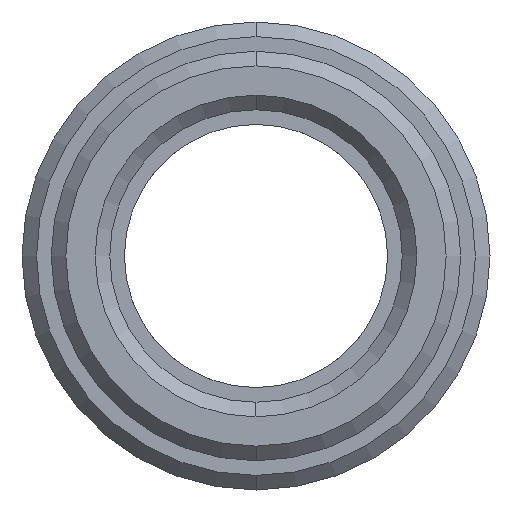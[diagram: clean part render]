
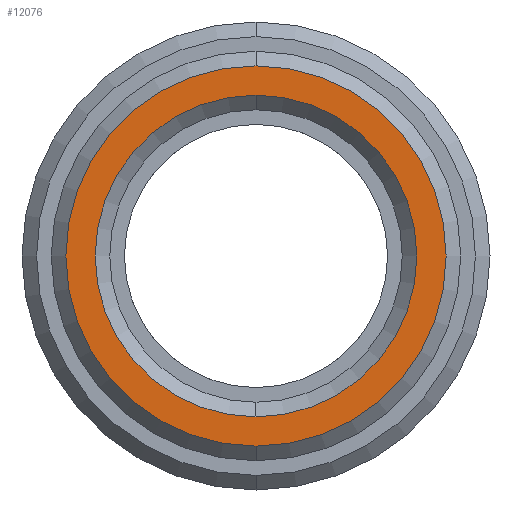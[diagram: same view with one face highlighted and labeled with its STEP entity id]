
A CAD part, left-side view. The second image highlights one B-rep face of the part: STEP entity #12076.
In plain terms, the highlighted planar face has unit normal (-1, 0, 0).
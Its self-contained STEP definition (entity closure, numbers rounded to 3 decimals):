
#4710=CARTESIAN_POINT('',(-5.,0.,0.));
#4711=DIRECTION('',(1.,0.,0.));
#4712=DIRECTION('',(0.,0.,1.));
#4713=AXIS2_PLACEMENT_3D('',#4710,#4711,#4712);
#4715=CARTESIAN_POINT('',(-5.,0.,0.));
#4716=DIRECTION('',(1.,0.,0.));
#4717=DIRECTION('',(0.,0.,-1.));
#4718=AXIS2_PLACEMENT_3D('',#4715,#4716,#4717);
#4720=CARTESIAN_POINT('',(-5.,0.,0.));
#4721=DIRECTION('',(1.,0.,0.));
#4722=DIRECTION('',(0.,0.,1.));
#4723=AXIS2_PLACEMENT_3D('',#4720,#4721,#4722);
#4725=CARTESIAN_POINT('',(-5.,0.,0.));
#4726=DIRECTION('',(1.,0.,0.));
#4727=DIRECTION('',(0.,0.,-1.));
#4728=AXIS2_PLACEMENT_3D('',#4725,#4726,#4727);
#10016=CARTESIAN_POINT('',(-5.,0.,6.5));
#10017=CARTESIAN_POINT('',(-5.,0.,-6.5));
#10018=VERTEX_POINT('',#10016);
#10019=VERTEX_POINT('',#10017);
#10020=CARTESIAN_POINT('',(-5.,0.,5.5));
#10021=CARTESIAN_POINT('',(-5.,0.,-5.5));
#10022=VERTEX_POINT('',#10020);
#10023=VERTEX_POINT('',#10021);
#12060=CARTESIAN_POINT('',(-5.,0.,0.));
#12061=DIRECTION('',(1.,0.,0.));
#12062=DIRECTION('',(0.,0.,1.));
#12063=AXIS2_PLACEMENT_3D('',#12060,#12061,#12062);
#12064=PLANE('',#12063);
#12066=ORIENTED_EDGE('',*,*,#12065,.T.);
#12068=ORIENTED_EDGE('',*,*,#12067,.T.);
#12069=EDGE_LOOP('',(#12066,#12068));
#12070=FACE_OUTER_BOUND('',#12069,.F.);
#12071=ORIENTED_EDGE('',*,*,#12050,.F.);
#12073=ORIENTED_EDGE('',*,*,#12072,.F.);
#12074=EDGE_LOOP('',(#12071,#12073));
#12075=FACE_BOUND('',#12074,.F.);
#12076=ADVANCED_FACE('',(#12070,#12075),#12064,.F.);
#4714=CIRCLE('',#4713,6.5);
#4719=CIRCLE('',#4718,6.5);
#4724=CIRCLE('',#4723,5.5);
#4729=CIRCLE('',#4728,5.5);
#12050=EDGE_CURVE('',#10022,#10023,#4724,.T.);
#12065=EDGE_CURVE('',#10018,#10019,#4714,.T.);
#12067=EDGE_CURVE('',#10019,#10018,#4719,.T.);
#12072=EDGE_CURVE('',#10023,#10022,#4729,.T.);
